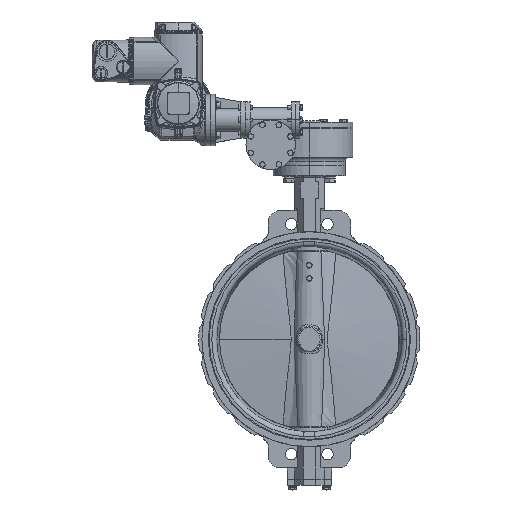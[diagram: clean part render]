
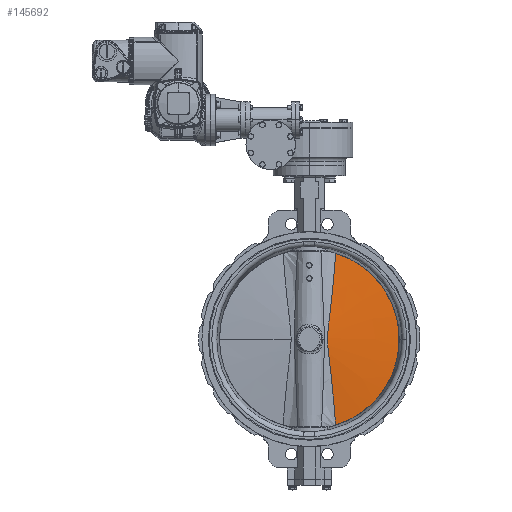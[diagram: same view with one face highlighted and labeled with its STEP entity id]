
A CAD part, top view. The second image highlights one B-rep face of the part: STEP entity #145692.
In plain terms, the highlighted conical face has half-angle 85 degrees and reference radius 218.25 mm.
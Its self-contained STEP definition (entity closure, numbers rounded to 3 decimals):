
#9242 = CARTESIAN_POINT ( 'NONE',  ( 61.177, 174.001, 7.713 ) ) ;
#10606 = FACE_OUTER_BOUND ( 'NONE', #250827, .T. ) ;
#21786 = CARTESIAN_POINT ( 'NONE',  ( 0., 0., 4.75 ) ) ;
#30627 = CARTESIAN_POINT ( 'NONE',  ( 44.336, -8.086, 19.906 ) ) ;
#32846 = CARTESIAN_POINT ( 'NONE',  ( 50.804, -69.153, 16.34 ) ) ;
#34223 = EDGE_CURVE ( 'NONE', #320060, #262637, #270078, .T. ) ;
#48281 = DIRECTION ( 'NONE',  ( 0., 0., 1. ) ) ;
#52040 = DIRECTION ( 'NONE',  ( -1., 0., 0. ) ) ;
#57540 = CARTESIAN_POINT ( 'NONE',  ( 44.404, 9.471, 19.877 ) ) ;
#58635 = CARTESIAN_POINT ( 'NONE',  ( 49.914, 61.472, 16.931 ) ) ;
#59737 = CARTESIAN_POINT ( 'NONE',  ( 56.422, -121.421, 12.144 ) ) ;
#60835 = CARTESIAN_POINT ( 'NONE',  ( 44.226, 5.099, 19.954 ) ) ;
#83355 = CARTESIAN_POINT ( 'NONE',  ( 46.835, 35.523, 18.708 ) ) ;
#84464 = CARTESIAN_POINT ( 'NONE',  ( 51.303, -73.507, 16.004 ) ) ;
#85557 = CARTESIAN_POINT ( 'NONE',  ( 44.189, -3.687, 19.97 ) ) ;
#86675 = CARTESIAN_POINT ( 'NONE',  ( 48.239, -47.384, 17.933 ) ) ;
#105068 = ORIENTED_EDGE ( 'NONE', *, *, #209233, .T. ) ;
#108044 = CARTESIAN_POINT ( 'NONE',  ( 48.372, 48.5, 17.856 ) ) ;
#108938 = B_SPLINE_CURVE_WITH_KNOTS ( 'NONE', 3,
 ( #261757, #163002, #9242, #315529, #289792, #186576, #137180, #211263, #58635, #108044, #287569, #83355, #262856, #133846, #188754, #158617, #57540, #60835, #109144, #212349, #85557, #30627, #288691, #265064, #187661, #240347, #134973, #314417, #86675, #290879, #160815, #32846, #84464, #263948, #111348, #59737, #112455, #291977, #312204, #161899 ),
 .UNSPECIFIED., .F., .F.,
 ( 4, 2, 2, 2, 2, 2, 2, 2, 2, 2, 2, 2, 2, 2, 2, 2, 2, 2, 2, 4 ),
 ( 0., 0.052, 0.105, 0.131, 0.157, 0.17, 0.183, 0.196, 0.203, 0.21, 0.216, 0.223, 0.236, 0.249, 0.262, 0.275, 0.288, 0.314, 0.367, 0.419 ),
 .UNSPECIFIED. ) ;
#109144 = CARTESIAN_POINT ( 'NONE',  ( 44.174, 2.909, 19.976 ) ) ;
#111348 = CARTESIAN_POINT ( 'NONE',  ( 53.713, -95.28, 14.279 ) ) ;
#112455 = CARTESIAN_POINT ( 'NONE',  ( 58.079, -138.86, 10.683 ) ) ;
#131072 = CARTESIAN_POINT ( 'NONE',  ( 63.903, -208.685, 4.75 ) ) ;
#133846 = CARTESIAN_POINT ( 'NONE',  ( 45.413, 22.525, 19.42 ) ) ;
#134242 = AXIS2_PLACEMENT_3D ( 'NONE', #21786, #306704, #52040 ) ;
#134973 = CARTESIAN_POINT ( 'NONE',  ( 46.695, -34.315, 18.782 ) ) ;
#137180 = CARTESIAN_POINT ( 'NONE',  ( 52.864, 87.415, 14.913 ) ) ;
#145692 = ADVANCED_FACE ( 'NONE', ( #10606 ), #247271, .T. ) ;
#158617 = CARTESIAN_POINT ( 'NONE',  ( 44.531, 11.652, 19.821 ) ) ;
#160815 = CARTESIAN_POINT ( 'NONE',  ( 49.79, -60.446, 16.996 ) ) ;
#161899 = CARTESIAN_POINT ( 'NONE',  ( 63.903, -208.685, 4.75 ) ) ;
#163002 = CARTESIAN_POINT ( 'NONE',  ( 62.587, 191.339, 6.235 ) ) ;
#176235 = DIRECTION ( 'NONE',  ( 1., 0., 0. ) ) ;
#186576 = CARTESIAN_POINT ( 'NONE',  ( 53.796, 96.066, 14.216 ) ) ;
#187661 = CARTESIAN_POINT ( 'NONE',  ( 45.286, -21.228, 19.48 ) ) ;
#188754 = CARTESIAN_POINT ( 'NONE',  ( 44.995, 18.184, 19.613 ) ) ;
#201996 = CARTESIAN_POINT ( 'NONE',  ( 0., 0., 4.75 ) ) ;
#209233 = EDGE_CURVE ( 'NONE', #262637, #320060, #108938, .T. ) ;
#211263 = CARTESIAN_POINT ( 'NONE',  ( 50.925, 70.118, 16.271 ) ) ;
#212349 = CARTESIAN_POINT ( 'NONE',  ( 44.156, -1.483, 19.984 ) ) ;
#236546 = ORIENTED_EDGE ( 'NONE', *, *, #34223, .T. ) ;
#240347 = CARTESIAN_POINT ( 'NONE',  ( 46.194, -29.957, 19.038 ) ) ;
#247271 = CONICAL_SURFACE ( 'NONE', #134242, 218.25, 1.484 ) ;
#250827 = EDGE_LOOP ( 'NONE', ( #236546, #105068 ) ) ;
#261757 = CARTESIAN_POINT ( 'NONE',  ( 63.903, 208.685, 4.75 ) ) ;
#262637 = VERTEX_POINT ( 'NONE', #278867 ) ;
#262856 = CARTESIAN_POINT ( 'NONE',  ( 46.333, 31.195, 18.967 ) ) ;
#263948 = CARTESIAN_POINT ( 'NONE',  ( 52.772, -86.57, 14.981 ) ) ;
#265064 = CARTESIAN_POINT ( 'NONE',  ( 44.88, -16.857, 19.666 ) ) ;
#270078 = CIRCLE ( 'NONE', #277071, 218.25 ) ;
#277071 = AXIS2_PLACEMENT_3D ( 'NONE', #201996, #48281, #176235 ) ;
#278867 = CARTESIAN_POINT ( 'NONE',  ( 63.903, 208.685, 4.75 ) ) ;
#287569 = CARTESIAN_POINT ( 'NONE',  ( 47.854, 44.176, 18.153 ) ) ;
#288691 = CARTESIAN_POINT ( 'NONE',  ( 44.449, -10.282, 19.857 ) ) ;
#289792 = CARTESIAN_POINT ( 'NONE',  ( 56.48, 122.027, 12.094 ) ) ;
#290879 = CARTESIAN_POINT ( 'NONE',  ( 49.275, -56.092, 17.316 ) ) ;
#291977 = CARTESIAN_POINT ( 'NONE',  ( 61.157, -173.758, 7.734 ) ) ;
#306704 = DIRECTION ( 'NONE',  ( 0., 0., -1. ) ) ;
#312204 = CARTESIAN_POINT ( 'NONE',  ( 62.577, -191.217, 6.245 ) ) ;
#314417 = CARTESIAN_POINT ( 'NONE',  ( 47.717, -43.029, 18.229 ) ) ;
#315529 = CARTESIAN_POINT ( 'NONE',  ( 58.124, 139.345, 10.642 ) ) ;
#320060 = VERTEX_POINT ( 'NONE', #131072 ) ;
